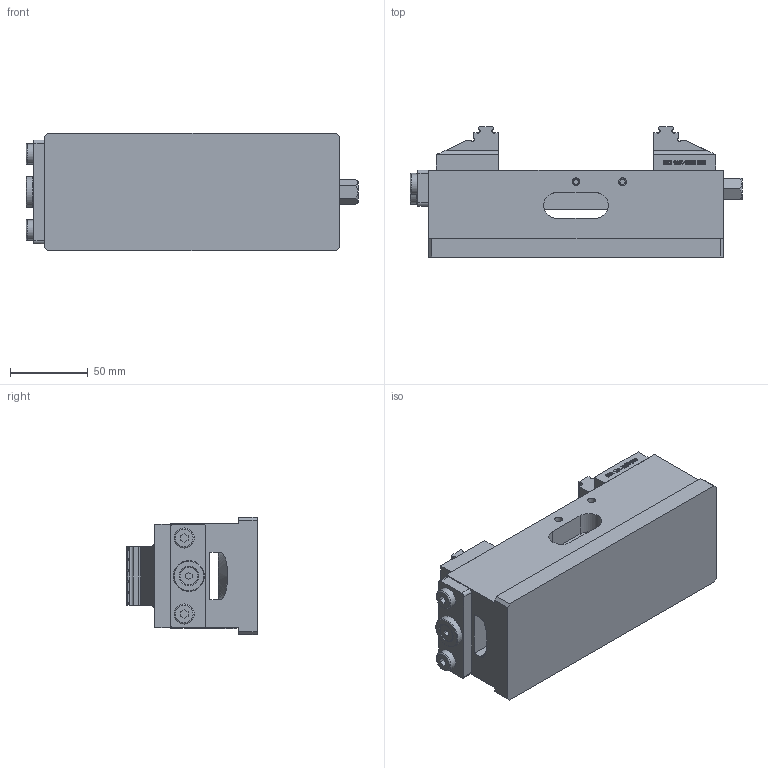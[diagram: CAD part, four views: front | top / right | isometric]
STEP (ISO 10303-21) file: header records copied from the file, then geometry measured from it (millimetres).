
FILE_DESCRIPTION (( 'STEP AP214' ), '1' );
FILE_NAME ('3D-6921528002155.STEP', '2023-12-22T07:17:07', ( '' ), ( '' ), 'SwSTEP 2.0', 'SolidWorks 2021', '' );
FILE_SCHEMA (( 'AUTOMOTIVE_DESIGN' ));
Length unit declared in the file: millimetre
Products named in the file (4): 3D-692152800x155; 3D-6921524060000; 3D-6921524050000; 3D-6921528002155
Assembly tree (3 placements, depth 2):
  3D-6921528002155
    3D-692152800x155
    3D-6921524050000
    3D-6921524060000
Bounding box: 214 x 84 x 76 mm (x, y, z)
Volume: 780014.6 mm3; surface area: 98493.5 mm2
Topology: 3 solids, 3 shells, 1340 faces, 3584 edges, 2380 vertices
Faces by surface type: plane 730, bspline 517, cylinder 79, cone 12, torus 2
Full cylindrical faces by diameter (mm): 4.2 x4, 5 x2, 11.6 x1, 13 x2, 17.5 x1, 20 x1
Entity records: 67869 total; most frequent: CARTESIAN_POINT 38063, ORIENTED_EDGE 7106, DIRECTION 4144, EDGE_CURVE 3553, VERTEX_POINT 2374, VECTOR 2338, LINE 2338, EDGE_LOOP 1501
